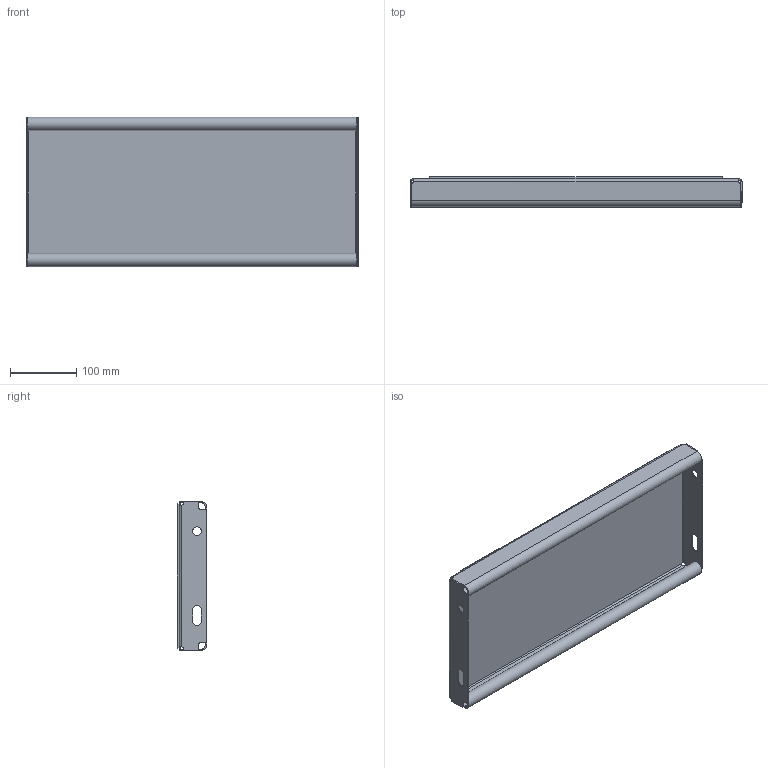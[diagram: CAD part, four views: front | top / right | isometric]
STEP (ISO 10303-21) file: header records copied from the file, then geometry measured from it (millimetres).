
FILE_DESCRIPTION (( 'STEP AP214' ), '1' );
FILE_NAME ('OPTIMO-Tread-Achil-O2-500x225x45x2-st240-F100220100_plain.STEP', '2021-03-16T07:57:03', ( '' ), ( '' ), 'SwSTEP 2.0', 'SolidWorks 2021', '' );
FILE_SCHEMA (( 'AUTOMOTIVE_DESIGN' ));
Length unit declared in the file: millimetre
Products named in the file (1): OPTIMO-Tread-Achil-O2-500x225x45x2-st240-F100220100_plain
Bounding box: 500 x 45 x 225 mm (x, y, z)
Volume: 696207.6 mm3; surface area: 418259.1 mm2
Topology: 1 solids, 1 shells, 248 faces, 640 edges, 412 vertices
Faces by surface type: plane 173, bspline 39, cylinder 36
Entity records: 9924 total; most frequent: CARTESIAN_POINT 4092, ORIENTED_EDGE 1280, DIRECTION 1022, EDGE_CURVE 640, VECTOR 490, LINE 490, VERTEX_POINT 412, EDGE_LOOP 274
